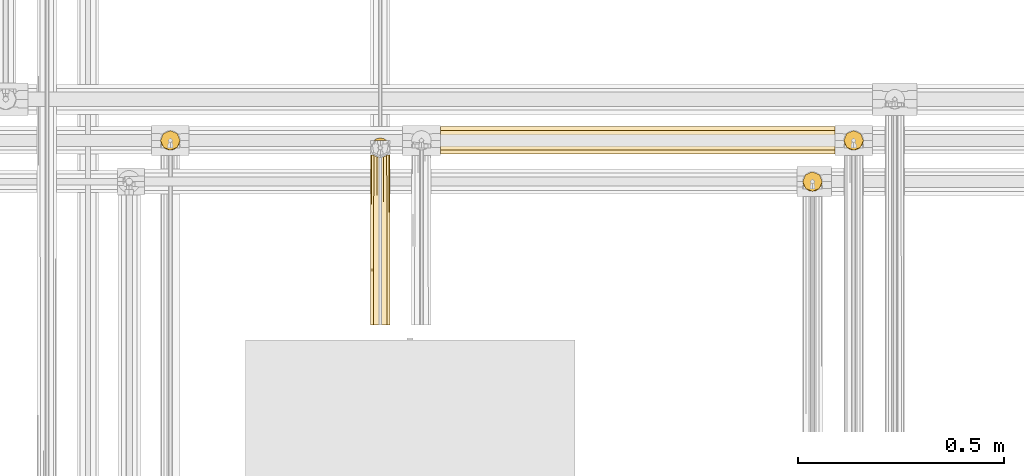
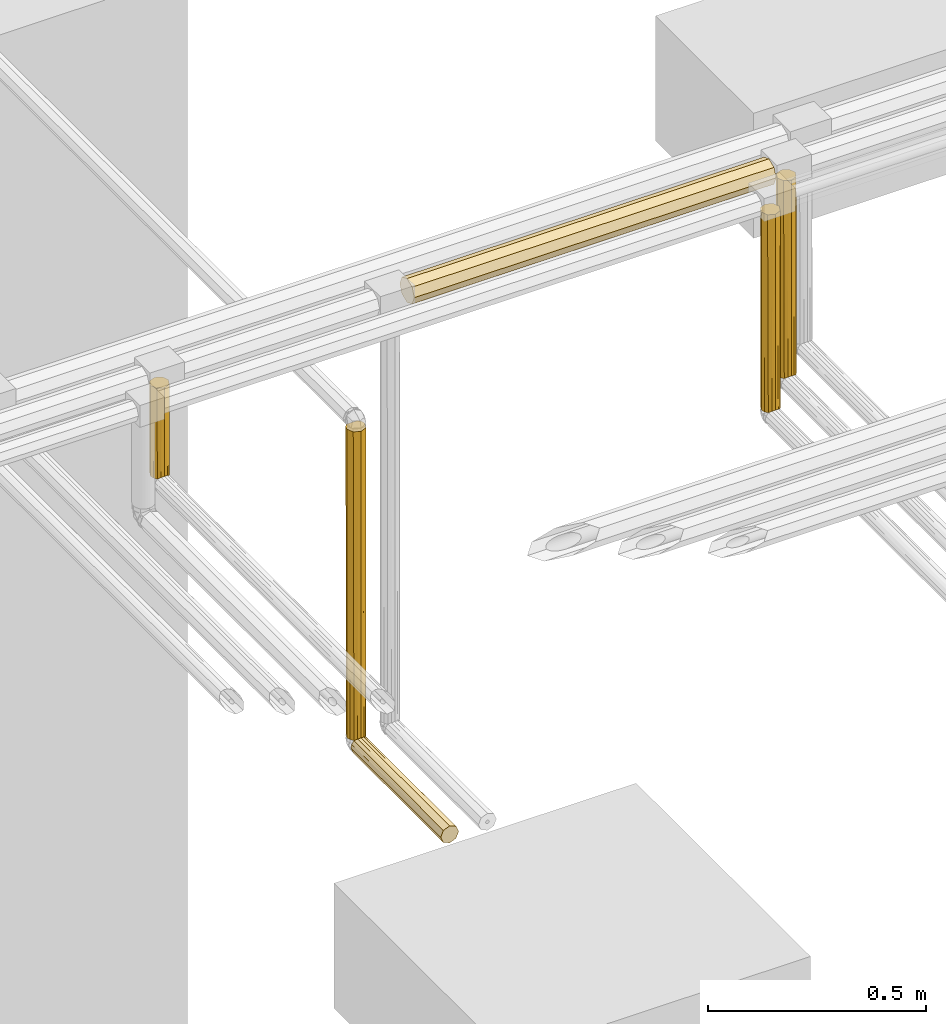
# One storey, part 172 of 652: 6 coverings.
"""IFC2X3 building model written with IfcOpenShell, lengths in millimetres."""

import ifcopenshell
import ifcopenshell.guid

model = None  # the IFC model being written
_history = None  # IfcOwnerHistory: only IFC2X3 demands one
_inside = {}  # id of a spatial element -> (the spatial element, [elements in it])
_under = {}  # id of a project, library or spatial element -> (it, [spatial elements below it])
_declared = {}  # id of a project -> (the project, [libraries it declares])
_typed = {}  # id of a type object -> (the type object, [elements of that type])
_made_of = {}  # id of a material, layer set ... -> (it, [elements and type objects made of it])


def new_model(schema):
    """Start an empty IFC model of exactly this schema.

    Asked for "IFC4X3", IfcOpenShell would pick the latest addendum, in which some entities
    have other attributes; the version numbers below select the first issue.
    IFC2X3 requires an IfcOwnerHistory on every rooted entity: one is made here for all.
    """
    global model, _history
    if schema == "IFC4X3":
        model = ifcopenshell.file(schema_version=(4, 3, 0, 0))
    else:
        model = ifcopenshell.file(schema=schema)
    _inside.clear()
    _under.clear()
    _declared.clear()
    _typed.clear()
    _made_of.clear()
    _history = None
    if model.schema == "IFC2X3":
        org = make("IfcOrganization", Name="unknown")
        user = make(
            "IfcPersonAndOrganization",
            ThePerson=make("IfcPerson", FamilyName="unknown"),
            TheOrganization=org,
        )
        app = make(
            "IfcApplication",
            ApplicationDeveloper=org,
            Version="unknown",
            ApplicationFullName="unknown",
            ApplicationIdentifier="unknown",
        )
        _history = make(
            "IfcOwnerHistory",
            OwningUser=user,
            OwningApplication=app,
            ChangeAction="ADDED",
            CreationDate=0,
        )
    return model


def make(cls, **values):
    """One entity of the class cls with the attributes given. An attribute that is None is left unset."""
    return model.create_entity(
        cls, **{name: value for name, value in values.items() if value is not None}
    )


def entity(cls, *values):
    """Any entity or typed value of the class cls, its attributes in the order of the schema. None: left unset."""
    e = model.create_entity(cls)
    for i, value in enumerate(values):
        if value is not None:
            e[i] = value
    return e


def rooted(cls, **values):
    """An entity with a GlobalId (a new one), such as an element, a storey or a relation."""
    return make(cls, GlobalId=ifcopenshell.guid.new(), OwnerHistory=_history, **values)


def si_unit(unit_type, name, prefix=None):
    """IfcSIUnit, for example si_unit("LENGTHUNIT", "METRE", prefix="MILLI")."""
    return make("IfcSIUnit", UnitType=unit_type, Prefix=prefix, Name=name)


def converted_unit(unit_type, name, factor, base, dimensions=None, offset=None):
    """IfcConversionBasedUnit, such as the inch: factor (a typed value) times the base unit."""
    return make(
        "IfcConversionBasedUnit"
        if offset is None
        else "IfcConversionBasedUnitWithOffset",
        ConversionOffset=offset,
        Dimensions=None
        if dimensions is None
        else entity("IfcDimensionalExponents", *dimensions),
        UnitType=unit_type,
        Name=name,
        ConversionFactor=make(
            "IfcMeasureWithUnit", ValueComponent=factor, UnitComponent=base
        ),
    )


def assignment(units):
    """IfcUnitAssignment: the units of a project."""
    return None if units is None else make("IfcUnitAssignment", Units=units)


def point(xyz):
    """IfcCartesianPoint."""
    return None if xyz is None else make("IfcCartesianPoint", Coordinates=xyz)


def direction(xyz):
    """IfcDirection."""
    return None if xyz is None else make("IfcDirection", DirectionRatios=xyz)


def frame(location, z_axis=None, x_axis=None):
    """IfcAxis2Placement3D, a coordinate frame: its origin and axes. An axis left out is left unset."""
    return make(
        "IfcAxis2Placement3D",
        Location=point(location),
        Axis=direction(z_axis),
        RefDirection=direction(x_axis),
    )


def origin():
    """The frame at (0, 0, 0) with its axes left unset."""
    return frame((0.0, 0.0, 0.0))


def place(relative_to, where):
    """IfcLocalPlacement: puts the frame where relative to a parent placement (None: the world)."""
    return make(
        "IfcLocalPlacement", PlacementRelTo=relative_to, RelativePlacement=where
    )


def context(
    kind, dimensions, precision=None, world=None, true_north=None, identifier=None
):
    """IfcGeometricRepresentationContext, for example the 3D "Model" context."""
    return make(
        "IfcGeometricRepresentationContext",
        ContextIdentifier=identifier,
        ContextType=kind,
        CoordinateSpaceDimension=dimensions,
        Precision=precision,
        WorldCoordinateSystem=world,
        TrueNorth=true_north,
    )


def subcontext(parent, identifier, kind, view, scale=None):
    """IfcGeometricRepresentationSubContext, for example "Body" below "Model"."""
    return make(
        "IfcGeometricRepresentationSubContext",
        ContextIdentifier=identifier,
        ContextType=kind,
        ParentContext=parent,
        TargetScale=scale,
        TargetView=view,
    )


def project(units=None, contexts=None):
    """IfcProject with its units and contexts."""
    return rooted(
        "IfcProject",
        Name="project",
        RepresentationContexts=contexts,
        UnitsInContext=assignment(units),
    )


def spatial(cls, under=None, at=None, **own):
    """A site, building, storey or space (cls), placed at a placement, below another one or the project."""
    s = rooted(cls, ObjectPlacement=at, **own)
    if under is not None:
        _under.setdefault(under.id(), (under, []))[1].append(s)
    return s


def faces_of(points, faces, orient=None, outer=None):
    """IfcFace entities. A face is a list of loops; a loop is a list of indices into points, from 0.

    orient and outer hold one flag for each loop. By default every Orientation is true, the
    first loop of a face is its IfcFaceOuterBound and the others are IfcFaceBound.
    """
    made = []
    for i, loops in enumerate(faces):
        bounds = []
        for j, loop in enumerate(loops):
            is_outer = j == 0 if outer is None else outer[i][j]
            bounds.append(
                make(
                    "IfcFaceOuterBound" if is_outer else "IfcFaceBound",
                    Bound=make("IfcPolyLoop", Polygon=[points[k] for k in loop]),
                    Orientation=True if orient is None else orient[i][j],
                )
            )
        made.append(make("IfcFace", Bounds=bounds))
    return made


def faceted_brep(points, faces, orient=None, outer=None, voids=None):
    """IfcFacetedBrep: a solid bounded by flat faces; with voids (closed shells), ...WithVoids."""
    shared = [point(p) for p in points]
    hull = make("IfcClosedShell", CfsFaces=faces_of(shared, faces, orient, outer))
    if voids is None:
        return make("IfcFacetedBrep", Outer=hull)
    return make(
        "IfcFacetedBrepWithVoids",
        Outer=hull,
        Voids=[
            make(cls, CfsFaces=faces_of(shared, fs, o, b)) for cls, fs, o, b in voids
        ],
    )


def shape(context_of_items, identifier, shape_type, items):
    """IfcShapeRepresentation: the items that make up one representation, for example the "Body"."""
    return make(
        "IfcShapeRepresentation",
        ContextOfItems=context_of_items,
        RepresentationIdentifier=identifier,
        RepresentationType=shape_type,
        Items=items,
    )


def material(Name=None, Category=None):
    """IfcMaterial."""
    return make("IfcMaterial", Name=Name, Category=Category)


def made_of(thing, what):
    """Note that an element or type object is made of a material, layer set ...; save() writes the relation."""
    if what is not None:
        _made_of.setdefault(what.id(), (what, []))[1].append(thing)
    return thing


def type_object(cls, material=None, **own):
    """A type object (cls), such as IfcWallType, which elements share."""
    return made_of(rooted(cls, **own), material)


def element(
    cls,
    number,
    at=None,
    inside=None,
    cuts=None,
    type_object=None,
    material=None,
    context=None,
    identifier="Body",
    shape_type=None,
    held_by="IfcProductDefinitionShape",
    body=None,
    shapes=None,
    **own,
):
    """One element of the class cls, such as IfcWall. Its Tag is "e" and its number.

    at: its placement. inside: the storey or other place that contains it. cuts: it is an
    opening in that element (IfcRelVoidsElement). A single representation is given by context,
    identifier, shape_type and body (its items); several are given by shapes. held_by: the class
    of the entity that holds the representations. save() writes the other relations.
    """
    e = rooted(cls, Tag="e%d" % number, ObjectPlacement=at, **own)
    if body is not None:
        shapes = [shape(context, identifier, shape_type, body)]
    if shapes is not None:
        e.Representation = make(held_by, Representations=shapes)
    if inside is not None:
        _inside.setdefault(inside.id(), (inside, []))[1].append(e)
    if cuts is not None:
        rooted(
            "IfcRelVoidsElement", RelatingBuildingElement=cuts, RelatedOpeningElement=e
        )
    if type_object is not None:
        _typed.setdefault(type_object.id(), (type_object, []))[1].append(e)
    return made_of(e, material)


def aggregate(whole, parts):
    """IfcRelAggregates: a whole, such as a stair, and the parts it consists of."""
    return rooted("IfcRelAggregates", RelatingObject=whole, RelatedObjects=parts)


def save(model, path):
    """Write the relations noted so far, then the file.

    IfcRelAggregates (storeys below a building ...), IfcRelContainedInSpatialStructure (elements
    in a storey), IfcRelDefinesByType, IfcRelAssociatesMaterial and IfcRelDeclares: one each for
    every whole, place, type object, material and project.
    """
    for whole, parts in _under.values():
        aggregate(whole, parts)
    for where, things in _inside.values():
        rooted(
            "IfcRelContainedInSpatialStructure",
            RelatedElements=things,
            RelatingStructure=where,
        )
    for kind, things in _typed.values():
        rooted("IfcRelDefinesByType", RelatedObjects=things, RelatingType=kind)
    for what, things in _made_of.values():
        rooted("IfcRelAssociatesMaterial", RelatedObjects=things, RelatingMaterial=what)
    for by, libraries in _declared.values():
        rooted("IfcRelDeclares", RelatingContext=by, RelatedDefinitions=libraries)
    model.write(path)


model = new_model("IFC2X3")

# Units and contexts
model_context = context("Model", 3, precision=0.01, world=frame((0.0, 0.0, 308426.39999999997)), true_north=direction((6.123233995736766e-17, 1.0)))
plan_context = context("Plan", 3, precision=0.01, world=frame((0.0, 0.0, 308426.39999999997)), true_north=direction((6.123233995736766e-17, 1.0)))
body_context = subcontext(model_context, "Body", "Model", "MODEL_VIEW")
ifc_project = project(units=[si_unit("LENGTHUNIT", "METRE", prefix="MILLI"), si_unit("AREAUNIT", "SQUARE_METRE"), si_unit("VOLUMEUNIT", "CUBIC_METRE"), converted_unit("PLANEANGLEUNIT", "DEGREE", entity("IfcPlaneAngleMeasure", 0.017453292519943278), si_unit("PLANEANGLEUNIT", "RADIAN"), dimensions=[0, 0, 0, 0, 0, 0, 0])], contexts=[model_context, plan_context])

# Site, building, storey
site_placement = place(None, origin())
site = spatial("IfcSite", under=ifc_project, at=site_placement, Name="Default", CompositionType="ELEMENT")
building_placement = place(site_placement, origin())
building = spatial("IfcBuilding", under=site, at=building_placement, CompositionType="ELEMENT")
storey_placement = place(building_placement, frame((0.0, 0.0, 1730.6999999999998)))
storey = spatial("IfcBuildingStorey", under=building, at=storey_placement, Name="EG_Produktion_FFB", CompositionType="ELEMENT", Elevation=1730.6999999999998)

# Coverings
ifc_material = material(Name="Dämmung - Armaflex-Schlauch")
covering_type = type_object("IfcCoveringType", Name="Rohrdämmung außen:Armaflex-Schlauch", PredefinedType="INSULATION")
covering_1_placement = place(storey_placement, frame((34675.747749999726, 60965.11722776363, 3865.117227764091)))
element("IfcCovering", 1, at=covering_1_placement, inside=storey, type_object=covering_type, material=ifc_material, Name="Rohrdämmung außen:Armaflex-Schlauch", ObjectType="Rohrdämmung außen:Armaflex-Schlauch", PredefinedType="INSULATION", context=body_context, shape_type="Brep", body=[
    faceted_brep([(958.5044999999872, 68.17027223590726, 34.88277223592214), (958.5044999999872, 66.3488028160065, 39.280188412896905), (958.5044999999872, 63.295430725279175, 46.651680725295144), (958.5044999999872, 60.85800996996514, 52.536134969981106), (958.5044999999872, 58.420589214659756, 58.42058921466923), (958.5044999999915, 52.53613496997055, 60.858009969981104), (958.5044999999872, 46.65168072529, 63.29543072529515), (958.5044999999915, 40.76722648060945, 65.7328514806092), (958.5044999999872, 34.88277223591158, 68.17027223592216), (958.5044999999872, 30.48535605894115, 66.34880281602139), (958.5044999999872, 23.113863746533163, 63.295430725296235), (958.5044999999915, 17.229409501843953, 60.85800996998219), (958.5044999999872, 11.344955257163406, 58.42058921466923), (958.5044999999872, 8.907534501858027, 52.53613496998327), (958.5044999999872, 6.470113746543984, 46.651680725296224), (958.5044999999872, 4.0326929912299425, 40.76722648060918), (958.5044999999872, 1.5952722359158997, 34.88277223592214), (958.5044999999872, 4.0326929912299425, 28.998317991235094), (958.5044999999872, 6.470113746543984, 23.113863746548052), (958.5044999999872, 8.907534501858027, 17.22940950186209), (958.5044999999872, 11.344955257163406, 11.344955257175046), (958.5044999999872, 17.229409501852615, 8.907534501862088), (958.5044999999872, 23.113863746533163, 6.470113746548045), (958.5044999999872, 28.998317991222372, 4.032692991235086), (958.5044999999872, 34.88277223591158, 1.5952722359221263), (958.5044999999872, 39.28018841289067, 3.416741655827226), (958.5044999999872, 46.65168072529, 6.470113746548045), (958.5044999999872, 52.53613496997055, 8.907534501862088), (958.5044999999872, 58.420589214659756, 11.344955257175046), (958.5044999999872, 60.85800996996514, 17.229409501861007), (958.5044999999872, 63.295430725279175, 23.113863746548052), (958.5044999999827, 65.73285148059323, 28.998317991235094), (0.0, 52.53613496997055, 8.907534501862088), (0.0, 46.65168072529, 6.470113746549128), (0.0, 40.76722648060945, 4.032692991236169), (0.0, 34.88277223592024, 1.595272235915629), (0.0, 26.087939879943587, 5.238211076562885), (0.0, 18.71644756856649, 8.291583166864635), (0.0, 11.344955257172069, 11.34495525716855), (0.0, 8.907534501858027, 17.229409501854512), (0.0, 6.470113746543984, 23.113863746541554), (0.0, 4.032692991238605, 28.9983179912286), (0.0, 1.5952722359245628, 34.88277223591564), (0.0, 5.2382110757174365, 43.677604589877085), (0.0, 8.291583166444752, 51.049096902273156), (0.0, 11.344955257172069, 58.42058921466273), (0.0, 17.229409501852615, 60.85800996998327), (0.0, 23.113863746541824, 63.295430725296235), (0.0, 28.998317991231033, 65.7328514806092), (0.0, 34.88277223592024, 68.17027223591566), (0.0, 43.677604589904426, 64.52733339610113), (0.0, 51.04909690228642, 61.47396130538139), (0.0, 58.42058921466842, 58.42058921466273), (0.0, 60.85800996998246, 52.536134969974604), (0.0, 63.295430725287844, 46.65168072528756), (0.0, 65.73285148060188, 40.76722648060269), (0.0, 68.17027223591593, 34.88277223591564), (0.0, 64.52733339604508, 26.087939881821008), (0.0, 61.47396130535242, 18.71644756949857), (0.0, 58.42058921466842, 11.34495525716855)], [[[0, 1, 2, 3, 4, 5, 6, 7, 8, 9, 10, 11, 12, 13, 14, 15, 16, 17, 18, 19, 20, 21, 22, 23, 24, 25, 26, 27, 28, 29, 30, 31]], [[32, 33, 34, 35, 36, 37, 38, 39, 40, 41, 42, 43, 44, 45, 46, 47, 48, 49, 50, 51, 52, 53, 54, 55, 56, 57, 58, 59]], [[40, 39, 38, 20, 19, 18, 17, 16, 42, 41]], [[36, 35, 24, 23, 22, 21, 20, 38, 37]], [[33, 32, 59, 28, 27, 26, 25, 24, 35, 34]], [[28, 59, 58, 57, 56, 0, 31, 30, 29]], [[54, 53, 52, 4, 3, 2, 1, 0, 56, 55]], [[4, 52, 51, 50, 49, 8, 7, 6, 5]], [[47, 46, 45, 12, 11, 10, 9, 8, 49, 48]], [[12, 45, 44, 43, 42, 16, 15, 14, 13]]]),
])
covering_2_placement = place(storey_placement, frame((35554.642227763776, 60874.64222776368, 3316.3549777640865)))
element("IfcCovering", 2, at=covering_2_placement, inside=storey, type_object=covering_type, material=ifc_material, Name="Rohrdämmung außen:Armaflex-Schlauch", ObjectType="Rohrdämmung außen:Armaflex-Schlauch", PredefinedType="INSULATION", context=body_context, shape_type="Brep", body=[
    faceted_brep([(43.90036590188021, 12.755803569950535, 555.508672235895), (45.640334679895, 16.956459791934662, 555.508672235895), (47.21923512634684, 20.76826266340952, 555.508672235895), (49.120272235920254, 25.35777223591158, 555.508672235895), (47.21923512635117, 29.94728180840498, 555.508672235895), (45.640334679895, 33.759084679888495, 555.508672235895), (43.90036590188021, 37.95974090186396, 555.508672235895), (42.160397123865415, 42.160397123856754, 555.508672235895), (37.95974090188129, 43.90036590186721, 555.508672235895), (33.75908467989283, 45.640334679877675, 555.508672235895), (29.947281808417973, 47.219235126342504, 555.508672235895), (25.357772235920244, 49.12027223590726, 555.508672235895), (20.768262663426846, 47.219235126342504, 555.508672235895), (16.95645979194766, 45.640334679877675, 555.508672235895), (12.755803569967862, 43.90036590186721, 555.5086722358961), (8.55514734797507, 42.160397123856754, 555.508672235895), (6.81517856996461, 37.95974090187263, 555.508672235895), (5.075209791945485, 33.759084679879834, 555.508672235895), (3.4963093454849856, 29.947281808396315, 555.508672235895), (1.5952722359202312, 25.35777223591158, 555.508672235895), (3.335241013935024, 21.15711601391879, 555.508672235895), (5.075209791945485, 16.956459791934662, 555.508672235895), (6.8151785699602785, 12.755803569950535, 555.508672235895), (8.55514734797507, 8.55514734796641, 555.508672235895), (12.755803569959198, 6.815178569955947, 555.508672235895), (16.956459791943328, 5.075209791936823, 555.508672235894), (21.157116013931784, 3.3352410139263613, 555.508672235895), (25.357772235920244, 1.5952722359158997, 555.508672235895), (29.558428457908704, 3.3352410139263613, 555.508672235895), (33.75908467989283, 5.075209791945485, 555.508672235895), (37.959740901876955, 6.815178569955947, 555.508672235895), (42.160397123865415, 8.55514734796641, 555.508672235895), (40.92841548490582, 7.407522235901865, 1.5952722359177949), (9.787128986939, 7.407522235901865, 1.5952722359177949), (6.764379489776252, 11.448105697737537, 1.5952722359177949), (3.7416299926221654, 15.488689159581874, 1.5952722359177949), (2.6684511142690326, 20.423230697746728, 1.595272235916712), (1.5952722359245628, 25.35777223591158, 1.5952722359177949), (3.4963093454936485, 29.947281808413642, 1.5952722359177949), (5.397346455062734, 34.53679138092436, 1.5952722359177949), (6.9762469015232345, 38.34859425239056, 1.5952722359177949), (8.555147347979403, 42.160397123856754, 1.5952722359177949), (12.75580356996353, 43.90036590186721, 1.5952722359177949), (16.95645979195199, 45.640334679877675, 1.5952722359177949), (21.157116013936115, 47.3803034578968, 1.5952722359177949), (25.357772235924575, 49.12027223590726, 1.5952722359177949), (29.947281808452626, 47.21923512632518, 1.5952722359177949), (34.53679138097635, 45.3181980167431, 1.5952722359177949), (38.34859425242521, 43.73929757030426, 1.5952722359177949), (42.16039712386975, 42.160397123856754, 1.5952722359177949), (43.90036590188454, 37.95974090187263, 1.5952722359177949), (45.640334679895, 33.759084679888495, 1.5952722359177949), (47.38030345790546, 29.558428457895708, 1.595272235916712), (49.12027223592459, 25.35777223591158, 1.5952722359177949), (48.047093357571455, 20.423230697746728, 1.5952722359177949), (46.973914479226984, 15.488689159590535, 1.5952722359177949), (43.951164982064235, 11.4481056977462, 1.5952722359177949), (17.04773040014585, 3.095705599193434, 5.907088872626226), (13.41742969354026, 5.2516139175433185, 3.7511805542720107), (21.20275131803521, 2.345488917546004, 6.65730555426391), (25.357772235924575, 1.5952722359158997, 7.407522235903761), (29.512793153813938, 2.345488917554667, 6.657305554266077), (33.6678140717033, 3.095705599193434, 5.907088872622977), (37.29811477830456, 5.251613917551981, 3.7511805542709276)], [[[0, 1, 2, 3, 4, 5, 6, 7, 8, 9, 10, 11, 12, 13, 14, 15, 16, 17, 18, 19, 20, 21, 22, 23, 24, 25, 26, 27, 28, 29, 30, 31]], [[32, 33, 34, 35, 36, 37, 38, 39, 40, 41, 42, 43, 44, 45, 46, 47, 48, 49, 50, 51, 52, 53, 54, 55, 56]], [[37, 20, 19]], [[25, 57, 26]], [[20, 37, 36]], [[36, 21, 20]], [[33, 23, 34]], [[24, 33, 58]], [[58, 57, 25]], [[59, 60, 27]], [[35, 34, 22]], [[34, 23, 22]], [[35, 22, 21]], [[26, 57, 59]], [[23, 33, 24]], [[36, 35, 21]], [[58, 25, 24]], [[59, 27, 26]], [[60, 61, 27]], [[53, 3, 54]], [[28, 61, 62]], [[55, 0, 56]], [[63, 29, 62]], [[31, 32, 56]], [[55, 54, 1]], [[1, 54, 3, 2]], [[27, 61, 28]], [[56, 0, 31]], [[55, 1, 0]], [[29, 63, 30]], [[32, 30, 63]], [[28, 62, 29]], [[30, 32, 31]], [[11, 10, 9, 8, 7, 49, 48, 47, 46, 45]], [[6, 5, 4, 3, 53, 52, 51, 50, 49, 7]], [[19, 18, 17, 16, 15, 41, 40, 39, 38, 37]], [[14, 13, 12, 11, 45, 44, 43, 42, 41, 15]], [[32, 63, 62, 61, 60, 59, 57, 58, 33]]]),
])
covering_3_placement = place(storey_placement, frame((35654.64222776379, 60974.64222776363, 3316.3549777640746)))
element("IfcCovering", 3, at=covering_3_placement, inside=storey, type_object=covering_type, material=ifc_material, Name="Rohrdämmung außen:Armaflex-Schlauch", ObjectType="Rohrdämmung außen:Armaflex-Schlauch", PredefinedType="INSULATION", context=body_context, shape_type="Brep", body=[
    faceted_brep([(43.90036590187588, 12.755803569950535, 555.5086722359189), (45.64033467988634, 16.956459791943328, 555.5086722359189), (47.219235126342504, 20.76826266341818, 555.5086722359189), (49.12027223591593, 25.35777223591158, 555.5086722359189), (47.21923512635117, 29.94728180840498, 555.5086722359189), (45.64033467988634, 33.759084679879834, 555.5086722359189), (43.90036590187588, 37.95974090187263, 555.5086722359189), (42.16039712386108, 42.160397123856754, 555.5086722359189), (37.95974090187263, 43.90036590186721, 555.5086722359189), (33.759084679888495, 45.64033467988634, 555.5086722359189), (29.94728180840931, 47.21923512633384, 555.5086722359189), (25.357772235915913, 49.12027223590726, 555.5086722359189), (20.76826266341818, 47.21923512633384, 555.5086722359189), (16.956459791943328, 45.640334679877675, 555.5086722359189), (12.755803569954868, 43.90036590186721, 555.5086722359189), (8.55514734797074, 42.160397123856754, 555.5086722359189), (6.815178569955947, 37.95974090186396, 555.5086722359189), (5.0752097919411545, 33.759084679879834, 555.5086722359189), (3.4963093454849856, 29.947281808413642, 555.5086722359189), (1.5952722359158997, 25.35777223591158, 555.5086722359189), (3.3352410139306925, 21.157116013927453, 555.5086722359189), (5.075209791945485, 16.956459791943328, 555.5086722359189), (6.815178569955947, 12.755803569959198, 555.5086722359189), (8.55514734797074, 8.55514734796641, 555.5086722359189), (12.755803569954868, 6.815178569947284, 555.5086722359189), (16.956459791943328, 5.075209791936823, 555.5086722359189), (21.157116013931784, 3.3352410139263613, 555.5086722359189), (25.357772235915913, 1.5952722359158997, 555.5086722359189), (29.55842845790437, 3.3352410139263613, 555.5086722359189), (33.759084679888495, 5.075209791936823, 555.5086722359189), (37.959740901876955, 6.815178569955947, 555.5086722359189), (42.16039712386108, 8.55514734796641, 555.5086722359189), (40.92841548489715, 7.407522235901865, 1.5952722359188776), (9.787128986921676, 7.407522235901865, 1.5952722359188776), (6.764379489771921, 11.448105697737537, 1.595272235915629), (3.7416299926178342, 15.488689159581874, 1.5952722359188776), (2.6684511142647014, 20.423230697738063, 1.5952722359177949), (1.5952722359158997, 25.35777223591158, 1.5952722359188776), (3.496309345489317, 29.947281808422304, 1.5952722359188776), (5.397346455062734, 34.53679138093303, 1.5952722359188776), (6.976246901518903, 38.34859425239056, 1.5952722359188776), (8.55514734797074, 42.160397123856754, 1.5952722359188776), (12.755803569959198, 43.90036590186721, 1.5952722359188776), (16.956459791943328, 45.64033467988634, 1.5952722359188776), (21.157116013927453, 47.3803034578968, 1.5952722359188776), (25.357772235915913, 49.12027223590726, 1.5952722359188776), (29.94728180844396, 47.21923512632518, 1.5952722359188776), (34.53679138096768, 45.3181980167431, 1.5952722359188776), (38.34859425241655, 43.73929757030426, 1.5952722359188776), (42.16039712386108, 42.160397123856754, 1.5952722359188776), (43.90036590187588, 37.95974090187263, 1.5952722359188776), (45.64033467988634, 33.759084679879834, 1.5952722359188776), (47.38030345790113, 29.558428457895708, 1.5952722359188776), (49.12027223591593, 25.35777223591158, 1.5952722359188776), (48.047093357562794, 20.423230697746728, 1.5952722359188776), (46.97391447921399, 15.488689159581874, 1.5952722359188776), (43.95116498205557, 11.448105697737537, 1.5952722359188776), (17.047730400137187, 3.095705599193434, 5.907088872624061), (13.417429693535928, 5.2516139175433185, 3.751180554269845), (21.20275131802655, 2.345488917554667, 6.657305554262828), (25.357772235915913, 1.5952722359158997, 7.407522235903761), (29.512793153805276, 2.345488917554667, 6.657305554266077), (33.667814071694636, 3.095705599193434, 5.907088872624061), (37.2981147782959, 5.2516139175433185, 3.7511805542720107)], [[[0, 1, 2, 3, 4, 5, 6, 7, 8, 9, 10, 11, 12, 13, 14, 15, 16, 17, 18, 19, 20, 21, 22, 23, 24, 25, 26, 27, 28, 29, 30, 31]], [[32, 33, 34, 35, 36, 37, 38, 39, 40, 41, 42, 43, 44, 45, 46, 47, 48, 49, 50, 51, 52, 53, 54, 55, 56]], [[37, 20, 19]], [[25, 57, 26]], [[20, 37, 36]], [[36, 21, 20]], [[33, 23, 34]], [[24, 33, 58]], [[58, 57, 25]], [[59, 60, 27]], [[35, 34, 22]], [[34, 23, 22]], [[35, 22, 21]], [[26, 57, 59]], [[23, 33, 24]], [[36, 35, 21]], [[58, 25, 24]], [[59, 27, 26]], [[60, 61, 27]], [[53, 3, 54]], [[28, 61, 62]], [[55, 0, 56]], [[63, 29, 62]], [[31, 32, 56]], [[55, 54, 1]], [[1, 54, 3, 2]], [[27, 61, 28]], [[56, 0, 31]], [[55, 1, 0]], [[29, 63, 30]], [[32, 30, 63]], [[28, 62, 29]], [[30, 32, 31]], [[11, 10, 9, 8, 7, 49, 48, 47, 46, 45]], [[6, 5, 4, 3, 53, 52, 51, 50, 49, 7]], [[19, 18, 17, 16, 15, 41, 40, 39, 38, 37]], [[14, 13, 12, 11, 45, 44, 43, 42, 41, 15]], [[32, 63, 62, 61, 60, 59, 57, 58, 33]]]),
])
covering_4_placement = place(storey_placement, frame((33994.64222776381, 60974.64222776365, 3616.3549777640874)))
element("IfcCovering", 4, at=covering_4_placement, inside=storey, type_object=covering_type, material=ifc_material, Name="Rohrdämmung außen:Armaflex-Schlauch", ObjectType="Rohrdämmung außen:Armaflex-Schlauch", PredefinedType="INSULATION", context=body_context, shape_type="Brep", body=[
    faceted_brep([(43.90036590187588, 12.755803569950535, 255.50867223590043), (45.64033467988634, 16.956459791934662, 255.50867223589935), (47.04671107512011, 20.351752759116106, 255.50867223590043), (49.12027223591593, 25.35777223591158, 255.50867223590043), (47.04671107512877, 30.36379171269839, 255.50867223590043), (45.64033467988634, 33.759084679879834, 255.50867223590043), (43.90036590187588, 37.95974090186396, 255.50867223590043), (42.16039712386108, 42.160397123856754, 255.50867223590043), (37.95974090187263, 43.90036590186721, 255.50867223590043), (33.759084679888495, 45.64033467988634, 255.50867223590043), (29.55842845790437, 47.3803034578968, 255.50867223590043), (25.357772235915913, 49.12027223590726, 255.50867223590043), (20.351752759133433, 47.046711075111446, 255.50867223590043), (16.956459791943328, 45.64033467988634, 255.50867223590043), (12.755803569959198, 43.90036590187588, 255.50867223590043), (8.55514734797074, 42.160397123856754, 255.50867223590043), (6.815178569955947, 37.95974090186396, 255.50867223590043), (5.075209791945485, 33.759084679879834, 255.50867223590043), (3.3352410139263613, 29.55842845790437, 255.50867223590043), (1.5952722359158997, 25.35777223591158, 255.50867223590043), (3.3352410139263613, 21.15711601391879, 255.50867223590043), (5.075209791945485, 16.956459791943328, 255.50867223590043), (6.8151785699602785, 12.755803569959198, 255.50867223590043), (8.55514734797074, 8.55514734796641, 255.50867223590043), (12.755803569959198, 6.815178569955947, 255.50867223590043), (16.956459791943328, 5.075209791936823, 255.50867223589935), (21.157116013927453, 3.3352410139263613, 255.50867223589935), (25.357772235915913, 1.5952722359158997, 255.50867223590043), (29.55842845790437, 3.3352410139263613, 255.50867223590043), (33.759084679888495, 5.075209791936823, 255.50867223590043), (37.95974090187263, 6.815178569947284, 255.50867223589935), (42.16039712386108, 8.55514734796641, 255.50867223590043), (40.92841548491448, 7.407522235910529, 1.595272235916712), (9.787128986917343, 7.407522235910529, 1.595272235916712), (6.764379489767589, 11.4481056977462, 1.595272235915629), (3.7416299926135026, 15.488689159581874, 1.595272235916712), (2.6684511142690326, 20.423230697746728, 1.595272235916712), (1.5952722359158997, 25.35777223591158, 1.595272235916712), (3.668833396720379, 30.363791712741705, 1.595272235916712), (5.742394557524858, 35.369811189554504, 1.595272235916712), (8.55514734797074, 42.160397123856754, 1.595272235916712), (12.755803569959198, 43.90036590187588, 1.595272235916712), (16.956459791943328, 45.64033467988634, 1.595272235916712), (21.157116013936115, 47.3803034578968, 1.595272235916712), (25.357772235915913, 49.12027223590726, 1.595272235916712), (30.363791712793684, 47.046711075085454, 1.595272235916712), (35.369811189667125, 44.97314991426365, 1.595272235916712), (42.16039712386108, 42.160397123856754, 1.595272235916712), (43.90036590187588, 37.95974090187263, 1.595272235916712), (45.64033467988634, 33.759084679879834, 1.595272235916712), (47.38030345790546, 29.55842845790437, 1.595272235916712), (49.12027223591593, 25.35777223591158, 1.595272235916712), (48.047093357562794, 20.423230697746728, 1.595272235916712), (46.97391447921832, 15.488689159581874, 1.595272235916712), (43.951164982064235, 11.4481056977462, 1.595272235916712), (13.417429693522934, 5.251613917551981, 3.7511805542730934), (17.047730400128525, 3.095705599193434, 5.907088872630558), (21.20275131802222, 2.345488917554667, 6.657305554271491), (25.357772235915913, 1.5952722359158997, 7.407522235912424), (29.512793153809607, 2.345488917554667, 6.657305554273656), (33.6678140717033, 3.095705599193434, 5.907088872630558), (37.29811477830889, 5.251613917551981, 3.7511805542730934)], [[[0, 1, 2, 3, 4, 5, 6, 7, 8, 9, 10, 11, 12, 13, 14, 15, 16, 17, 18, 19, 20, 21, 22, 23, 24, 25, 26, 27, 28, 29, 30, 31]], [[32, 33, 34, 35, 36, 37, 38, 39, 40, 41, 42, 43, 44, 45, 46, 47, 48, 49, 50, 51, 52, 53, 54]], [[37, 20, 19]], [[23, 34, 33]], [[36, 35, 21]], [[36, 21, 20]], [[22, 35, 34]], [[20, 37, 36]], [[55, 56, 25]], [[57, 58, 27]], [[22, 21, 35]], [[55, 25, 24]], [[24, 33, 55]], [[26, 56, 57]], [[23, 33, 24]], [[34, 23, 22]], [[25, 56, 26]], [[57, 27, 26]], [[58, 59, 27]], [[51, 3, 52]], [[28, 59, 60]], [[53, 0, 54]], [[61, 29, 60]], [[31, 32, 54]], [[53, 52, 1]], [[1, 52, 3, 2]], [[27, 59, 28]], [[54, 0, 31]], [[53, 1, 0]], [[29, 61, 30]], [[32, 30, 61]], [[28, 60, 29]], [[30, 32, 31]], [[44, 11, 10, 9, 8, 7, 47, 46, 45]], [[6, 5, 4, 3, 51, 50, 49, 48, 47, 7]], [[37, 19, 18, 17, 16, 15, 40, 39, 38]], [[14, 13, 12, 11, 44, 43, 42, 41, 40, 15]], [[32, 61, 60, 59, 58, 57, 56, 55, 33]]]),
])
covering_5_placement = place(storey_placement, frame((34504.642227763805, 60551.86364999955, 2674.6422277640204)))
element("IfcCovering", 5, at=covering_5_placement, inside=storey, type_object=covering_type, material=ifc_material, Name="Rohrdämmung außen:Armaflex-Schlauch", ObjectType="Rohrdämmung außen:Armaflex-Schlauch", PredefinedType="INSULATION", context=body_context, shape_type="Brep", body=[
    faceted_brep([(9.787128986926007, 412.23585000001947, 43.30802223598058), (40.92841548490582, 412.23585000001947, 43.30802223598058), (43.951164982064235, 412.23585000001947, 39.26743877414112), (46.97391447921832, 412.23585000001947, 35.22685531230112), (48.04709335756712, 412.23585000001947, 30.29231377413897), (49.12027223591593, 412.23585000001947, 25.35777223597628), (47.38030345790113, 412.23585000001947, 21.157116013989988), (45.64033467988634, 412.23585000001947, 16.956459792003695), (43.90036590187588, 412.23585000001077, 12.75580357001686), (42.16039712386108, 412.23585000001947, 8.55514734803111), (37.959740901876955, 412.23585000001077, 6.8151785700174), (33.759084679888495, 412.23585000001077, 5.075209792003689), (29.55842845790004, 412.23585000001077, 3.3352410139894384), (25.357772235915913, 412.23585000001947, 1.5952722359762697), (22.27435427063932, 412.2358500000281, 2.8724657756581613), (16.956459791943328, 412.23585000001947, 5.075209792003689), (12.755803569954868, 412.23585000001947, 6.8151785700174), (8.55514734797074, 412.23585000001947, 8.55514734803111), (6.815178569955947, 412.23585000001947, 12.755803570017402), (5.075209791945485, 412.23585000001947, 16.956459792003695), (3.3352410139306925, 412.23585000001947, 21.157116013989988), (1.5952722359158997, 412.23585000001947, 25.35777223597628), (2.6684511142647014, 412.23585000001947, 30.29231377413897), (3.7416299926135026, 412.23585000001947, 35.22685531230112), (6.764379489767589, 412.23585000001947, 39.26743877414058), (42.16039712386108, 0.0, 42.16039712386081), (37.95974090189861, 0.0, 43.90036590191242), (33.759084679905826, 0.0, 45.640334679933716), (29.558428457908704, 0.0, 47.380303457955), (25.357772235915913, 0.0, 49.12027223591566), (21.15711601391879, 0.0, 47.380303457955), (16.956459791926, 0.0, 45.640334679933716), (12.75580356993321, 0.0, 43.90036590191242), (8.55514734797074, 0.0, 42.16039712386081), (6.815178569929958, 0.0, 37.95974090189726), (5.07520979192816, 0.0, 33.75908467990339), (3.3352410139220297, 0.0, 29.558428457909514), (1.5952722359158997, 0.0, 25.35777223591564), (4.149659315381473, 0.0, 19.190936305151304), (6.352403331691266, 0.0, 13.873041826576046), (8.55514734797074, 0.0, 8.55514734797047), (12.755803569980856, 0.0, 6.81517856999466), (16.95645979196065, 0.0, 5.07520979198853), (21.157116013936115, 0.0, 3.3352410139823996), (25.357772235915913, 0.0, 1.595272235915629), (31.524608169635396, 0.0, 4.149659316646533), (36.84250264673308, 0.0, 6.35240333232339), (42.16039712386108, 0.0, 8.55514734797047), (43.90036590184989, 0.0, 12.755803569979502), (45.640334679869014, 0.0, 16.956459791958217), (47.38030345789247, 0.0, 21.15711601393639), (49.12027223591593, 0.0, 25.35777223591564), (47.843078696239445, 0.0, 28.44119020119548), (45.64033467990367, 0.0, 33.75908467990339), (43.90036590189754, 0.0, 37.95974090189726), (13.417429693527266, 410.0799416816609, 45.46393055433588), (17.047730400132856, 407.9240333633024, 47.61983887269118), (21.20275131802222, 407.17381668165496, 48.3700555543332), (25.357772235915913, 406.4236000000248, 49.120272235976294), (29.512793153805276, 407.1738166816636, 48.37005555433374), (37.29811477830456, 410.0799416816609, 45.46393055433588), (33.66781407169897, 407.9240333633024, 47.61983887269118)], [[[0, 1, 2, 3, 4, 5, 6, 7, 8, 9, 10, 11, 12, 13, 14, 15, 16, 17, 18, 19, 20, 21, 22, 23, 24]], [[25, 26, 27, 28, 29, 30, 31, 32, 33, 34, 35, 36, 37, 38, 39, 40, 41, 42, 43, 44, 45, 46, 47, 48, 49, 50, 51, 52, 53, 54]], [[49, 48, 47, 9, 8, 7, 6, 5, 51, 50]], [[45, 44, 13, 12, 11, 10, 9, 47, 46]], [[42, 41, 40, 17, 16, 15, 14, 13, 44, 43]], [[17, 40, 39, 38, 37, 21, 20, 19, 18]], [[24, 34, 33]], [[21, 36, 22]], [[55, 0, 32]], [[35, 23, 22]], [[35, 34, 23]], [[37, 36, 21]], [[0, 33, 32]], [[56, 31, 30]], [[22, 36, 35]], [[55, 31, 56]], [[23, 34, 24]], [[57, 56, 30]], [[31, 55, 32]], [[33, 0, 24]], [[29, 57, 30]], [[58, 57, 29]], [[29, 59, 58]], [[54, 53, 3]], [[59, 29, 28]], [[1, 26, 25]], [[60, 27, 26]], [[25, 2, 1]], [[53, 4, 3]], [[60, 61, 27]], [[27, 61, 28]], [[52, 5, 4]], [[26, 1, 60]], [[54, 3, 2]], [[2, 25, 54]], [[28, 61, 59]], [[4, 53, 52]], [[52, 51, 5]], [[1, 0, 55, 56, 57, 58, 59, 61, 60]]]),
])
covering_6_placement = place(storey_placement, frame((34504.642227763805, 60956.69197776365, 3583.6450222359)))
element("IfcCovering", 6, at=covering_6_placement, inside=storey, type_object=covering_type, material=ifc_material, Name="Rohrdämmung außen:Armaflex-Schlauch", ObjectType="Rohrdämmung außen:Armaflex-Schlauch", PredefinedType="INSULATION", context=body_context, shape_type="Brep", body=[
    faceted_brep([(2.6684511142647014, 20.42323069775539, -865.6947722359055), (1.5952722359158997, 25.357772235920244, -865.6947722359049), (3.3352410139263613, 29.55842845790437, -865.6947722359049), (5.075209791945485, 33.759084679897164, -865.6947722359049), (6.815178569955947, 37.95974090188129, -865.6947722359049), (8.55514734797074, 42.160397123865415, -865.6947722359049), (12.755803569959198, 43.90036590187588, -865.6947722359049), (16.956459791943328, 45.64033467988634, -865.6947722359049), (21.157116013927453, 47.38030345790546, -865.6947722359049), (25.357772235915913, 49.12027223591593, -865.6947722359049), (29.55842845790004, 47.38030345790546, -865.6947722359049), (33.759084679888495, 45.64033467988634, -865.6947722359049), (37.95974090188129, 43.90036590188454, -865.6947722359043), (42.16039712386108, 42.160397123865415, -865.6947722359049), (43.90036590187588, 37.95974090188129, -865.6947722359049), (45.64033467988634, 33.759084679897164, -865.6947722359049), (46.68302993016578, 31.24179566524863, -865.6947722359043), (49.12027223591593, 25.357772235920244, -865.6947722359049), (48.04709335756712, 20.42323069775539, -865.6947722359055), (46.97391447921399, 15.488689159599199, -865.6947722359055), (43.951164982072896, 11.448105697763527, -865.6947722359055), (40.92841548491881, 7.407522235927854, -865.6947722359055), (9.787128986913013, 7.407522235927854, -865.6947722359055), (6.764379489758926, 11.448105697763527, -865.6947722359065), (3.7416299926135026, 15.488689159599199, -865.6947722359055), (9.787128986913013, 43.30802223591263, -1.5952722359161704), (6.764379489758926, 39.267438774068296, -1.5952722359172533), (3.7416299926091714, 35.22685531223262, -1.5952722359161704), (2.6684511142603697, 30.29231377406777, -1.5952722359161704), (1.5952722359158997, 25.35777223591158, -1.5952722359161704), (4.032514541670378, 19.473748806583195, -1.5952722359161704), (5.075209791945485, 16.956459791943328, -1.5952722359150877), (6.8151785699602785, 12.755803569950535, -1.5952722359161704), (8.55514734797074, 8.55514734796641, -1.5952722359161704), (12.755803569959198, 6.815178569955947, -1.5952722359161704), (16.956459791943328, 5.075209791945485, -1.5952722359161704), (21.157116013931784, 3.335241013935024, -1.5952722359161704), (25.357772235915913, 1.5952722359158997, -1.5952722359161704), (29.55842845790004, 3.335241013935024, -1.5952722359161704), (33.759084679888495, 5.075209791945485, -1.5952722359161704), (37.95974090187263, 6.815178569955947, -1.5952722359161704), (42.16039712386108, 8.55514734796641, -1.5952722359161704), (43.900365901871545, 12.755803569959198, -1.5952722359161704), (45.64033467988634, 16.956459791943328, -1.5952722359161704), (47.3803034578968, 21.157116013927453, -1.5952722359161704), (49.12027223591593, 25.35777223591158, -1.5952722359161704), (48.047093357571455, 30.29231377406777, -1.5952722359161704), (46.97391447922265, 35.22685531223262, -1.5952722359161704), (43.951164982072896, 39.267438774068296, -1.5952722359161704), (40.92841548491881, 43.30802223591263, -1.5952722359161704), (17.04773040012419, 47.61983887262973, -5.907088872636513), (13.417429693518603, 45.46393055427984, -3.7511805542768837), (21.202751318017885, 48.3700555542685, -6.657305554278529), (25.357772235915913, 49.12027223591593, -7.4075222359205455), (29.512793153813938, 48.3700555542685, -6.657305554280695), (33.66781407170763, 47.61983887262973, -5.907088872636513), (37.29811477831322, 45.46393055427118, -3.7511805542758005), (29.512793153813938, 2.3454889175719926, -860.6327389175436), (37.29811477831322, 5.2516139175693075, -863.5388639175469), (33.66781407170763, 3.09570559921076, -861.3829555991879), (25.357772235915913, 1.5952722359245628, -859.8825222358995), (21.202751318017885, 2.3454889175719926, -860.6327389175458), (17.04773040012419, 3.09570559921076, -861.3829555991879), (13.417429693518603, 5.2516139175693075, -863.538863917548)], [[[0, 1, 2, 3, 4, 5, 6, 7, 8, 9, 10, 11, 12, 13, 14, 15, 16, 17, 18, 19, 20, 21, 22, 23, 24]], [[25, 26, 27, 28, 29, 30, 31, 32, 33, 34, 35, 36, 37, 38, 39, 40, 41, 42, 43, 44, 45, 46, 47, 48, 49]], [[29, 2, 1]], [[7, 50, 8]], [[2, 29, 28]], [[28, 3, 2]], [[25, 5, 26]], [[6, 25, 51]], [[51, 50, 7]], [[52, 53, 9]], [[27, 26, 4]], [[26, 5, 4]], [[27, 4, 3]], [[8, 50, 52]], [[5, 25, 6]], [[28, 27, 3]], [[51, 7, 6]], [[52, 9, 8]], [[53, 54, 9]], [[45, 17, 46]], [[10, 54, 55]], [[47, 14, 48]], [[56, 11, 55]], [[13, 49, 48]], [[15, 14, 47, 16]], [[16, 47, 46]], [[9, 54, 10]], [[48, 14, 13]], [[17, 16, 46]], [[11, 56, 12]], [[49, 12, 56]], [[10, 55, 11]], [[12, 49, 13]], [[20, 42, 41]], [[45, 44, 17]], [[43, 19, 18]], [[43, 42, 19]], [[37, 57, 38]], [[21, 40, 58]], [[59, 39, 38]], [[18, 44, 43]], [[39, 59, 58]], [[19, 42, 20]], [[57, 59, 38]], [[17, 44, 18]], [[41, 21, 20]], [[60, 57, 37]], [[40, 21, 41]], [[40, 39, 58]], [[37, 61, 60]], [[30, 24, 32, 31]], [[61, 37, 36]], [[62, 35, 63]], [[23, 33, 32]], [[33, 23, 22]], [[24, 30, 0]], [[22, 34, 33]], [[35, 62, 36]], [[29, 0, 30]], [[22, 63, 34]], [[32, 24, 23]], [[36, 62, 61]], [[29, 1, 0]], [[63, 35, 34]], [[59, 57, 60, 61, 62, 63, 22, 21, 58]], [[55, 54, 53, 52, 50, 51, 25, 49, 56]]]),
])

save(model, "model.ifc")
